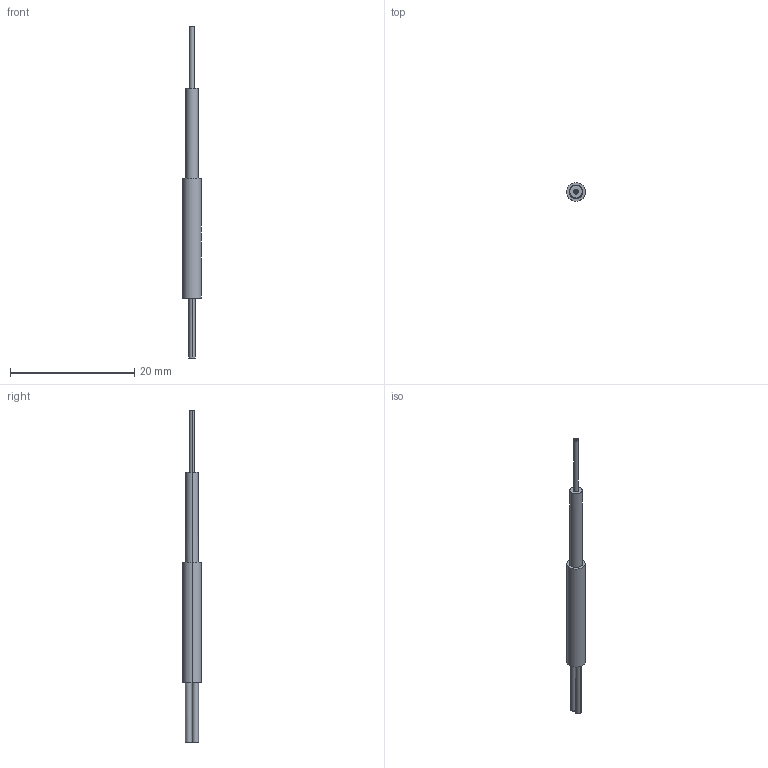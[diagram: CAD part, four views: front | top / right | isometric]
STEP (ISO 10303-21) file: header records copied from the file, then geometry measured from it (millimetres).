
FILE_DESCRIPTION (( 'STEP AP203' ), '1' );
FILE_NAME ('PD-E22-Q.STEP', '2016-06-30T01:32:06', ( '' ), ( '' ), 'SwSTEP 2.0', 'SolidWorks 2013', '' );
FILE_SCHEMA (( 'CONFIG_CONTROL_DESIGN' ));
Length unit declared in the file: millimetre
Products named in the file (1): PD-E22-Q
Bounding box: 3 x 3 x 53.51 mm (x, y, z)
Volume: 162.1 mm3; surface area: 632.1 mm2
Topology: 4 solids, 4 shells, 213 faces, 581 edges, 386 vertices
Faces by surface type: plane 142, bspline 36, cylinder 35
Entity records: 8830 total; most frequent: CARTESIAN_POINT 3589, ORIENTED_EDGE 1162, DIRECTION 950, EDGE_CURVE 581, VERTEX_POINT 386, LINE 342, VECTOR 342, AXIS2_PLACEMENT_3D 304
